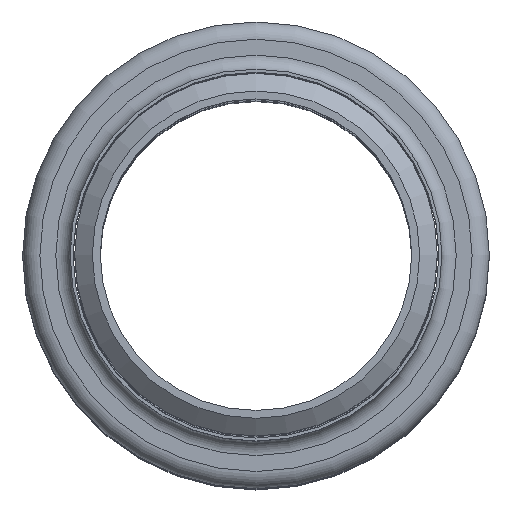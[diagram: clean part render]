
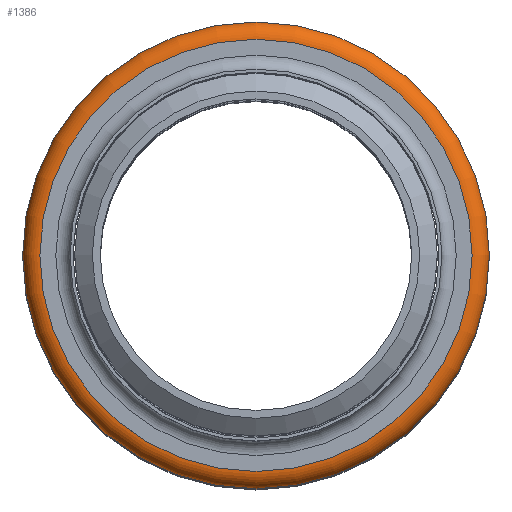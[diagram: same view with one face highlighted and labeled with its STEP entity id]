
A CAD part, top view. The second image highlights one B-rep face of the part: STEP entity #1386.
In plain terms, the highlighted toroidal (fillet/blend) face has major radius 43.51 mm and minor radius 3.48 mm.
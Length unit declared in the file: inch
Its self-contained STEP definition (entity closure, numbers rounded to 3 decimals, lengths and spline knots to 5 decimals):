
#104=TOROIDAL_SURFACE('',#1687,1.713,0.137);
#257=FACE_OUTER_BOUND('',#417,.T.);
#417=EDGE_LOOP('',(#1170,#1171,#1172,#1173));
#585=CIRCLE('',#1686,1.713);
#586=CIRCLE('',#1688,1.713);
#587=CIRCLE('',#1689,0.137);
#704=VERTEX_POINT('',#2635);
#705=VERTEX_POINT('',#2638);
#863=EDGE_CURVE('',#704,#704,#585,.T.);
#864=EDGE_CURVE('',#705,#705,#586,.T.);
#865=EDGE_CURVE('',#705,#704,#587,.T.);
#1170=ORIENTED_EDGE('',*,*,#864,.F.);
#1171=ORIENTED_EDGE('',*,*,#865,.T.);
#1172=ORIENTED_EDGE('',*,*,#863,.T.);
#1173=ORIENTED_EDGE('',*,*,#865,.F.);
#1386=ADVANCED_FACE('',(#257),#104,.T.);
#1686=AXIS2_PLACEMENT_3D('',#2636,#2201,#2202);
#1687=AXIS2_PLACEMENT_3D('',#2637,#2203,#2204);
#1688=AXIS2_PLACEMENT_3D('',#2639,#2205,#2206);
#1689=AXIS2_PLACEMENT_3D('',#2640,#2207,#2208);
#2201=DIRECTION('center_axis',(0.,0.,-1.));
#2202=DIRECTION('ref_axis',(1.,0.,0.));
#2203=DIRECTION('center_axis',(0.,0.,-1.));
#2204=DIRECTION('ref_axis',(-1.,0.,0.));
#2205=DIRECTION('center_axis',(0.,0.,-1.));
#2206=DIRECTION('ref_axis',(1.,0.,0.));
#2207=DIRECTION('center_axis',(0.,-1.,0.));
#2208=DIRECTION('ref_axis',(1.,0.,0.));
#2635=CARTESIAN_POINT('',(1.713,0.,-0.113));
#2636=CARTESIAN_POINT('Origin',(0.,0.,-0.113));
#2637=CARTESIAN_POINT('Origin',(0.,0.,-0.25));
#2638=CARTESIAN_POINT('',(1.713,0.,-0.387));
#2639=CARTESIAN_POINT('Origin',(0.,0.,-0.387));
#2640=CARTESIAN_POINT('Origin',(1.713,0.,-0.25));
